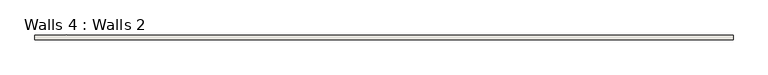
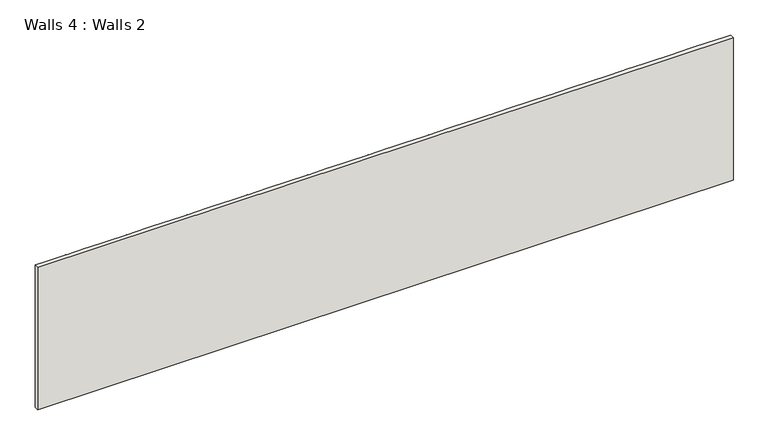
"""IFC4 building model written with IfcOpenShell, lengths in millimetres: wall geometry, Walls 4 : Walls 2."""

from ifc_helpers import new_model, si_unit, frame, origin, place, context, project, spatial, polyline, outline, extrude, source, transform, mapped, element, save


def walls_4_walls_2_c5f77fe5(model_context):
    return source(origin(), model_context, "Body", "SweptSolid", [
        extrude(outline(polyline([(6006.9536405, 3816.8998207), (6006.9536405, 3903.8998207), (6225.0336405, 3903.8998207), (6226.9136405, 3905.7798207), (6228.7936405, 3903.8998207), (6612.9199834, 3903.8998207), (6619.296812, 3910.2766493), (6625.6736405, 3903.8998207), (7018.7936405, 3903.8998207), (7020.6736405, 3905.7798207), (7022.5536405, 3903.8998207), (7415.6736405, 3903.8998207), (7417.5536405, 3905.7798207), (7419.4336405, 3903.8998207), (7812.5536405, 3903.8998207), (7814.4336405, 3905.7798207), (7816.3136405, 3903.8998207), (8209.4336405, 3903.8998207), (8211.3136405, 3905.7798207), (8213.1936405, 3903.8998207), (8606.3136405, 3903.8998207), (8608.1936405, 3905.7798207), (8610.0736405, 3903.8998207), (9003.1936405, 3903.8998207), (9005.0736405, 3905.7798207), (9006.9536405, 3903.8998207), (9400.0736405, 3903.8998207), (9401.9536405, 3905.7798207), (9403.8336405, 3903.8998207), (9796.9536405, 3903.8998207), (9798.8336405, 3905.7798207), (9800.7136405, 3903.8998207), (10193.8336405, 3903.8998207), (10195.7136405, 3905.7798207), (10197.5936405, 3903.8998207), (10590.7136405, 3903.8998207), (10592.5936405, 3905.7798207), (10594.4736405, 3903.8998207), (10987.5936405, 3903.8998207), (10989.4736405, 3905.7798207), (10991.3536405, 3903.8998207), (11384.4736405, 3903.8998207), (11386.3536405, 3905.7798207), (11388.2336405, 3903.8998207), (11781.3536405, 3903.8998207), (11783.2336405, 3905.7798207), (11785.1136405, 3903.8998207), (12178.2336405, 3903.8998207), (12180.1136405, 3905.7798207), (12181.9936405, 3903.8998207), (12575.1136405, 3903.8998207), (12576.9936405, 3905.7798207), (12578.8736405, 3903.8998207), (12971.9936405, 3903.8998207), (12973.8736405, 3905.7798207), (12975.7536405, 3903.8998207), (13368.8736405, 3903.8998207), (13370.7536405, 3905.7798207), (13372.6336405, 3903.8998207), (13765.7536405, 3903.8998207), (13767.6336405, 3905.7798207), (13769.5136405, 3903.8998207), (14162.6336405, 3903.8998207), (14164.5136405, 3905.7798207), (14166.3936405, 3903.8998207), (14559.5136405, 3903.8998207), (14561.3936405, 3905.7798207), (14563.2736405, 3903.8998207), (14956.3936405, 3903.8998207), (14958.2736405, 3905.7798207), (14960.1536405, 3903.8998207), (15353.2736405, 3903.8998207), (15355.1536405, 3905.7798207), (15357.0336405, 3903.8998207), (15750.1536405, 3903.8998207), (15752.0336405, 3905.7798207), (15753.9136405, 3903.8998207), (16147.0336405, 3903.8998207), (16148.9136405, 3905.7798207), (16150.7936405, 3903.8998207), (16543.9136405, 3903.8998207), (16545.7936405, 3905.7798207), (16547.6736405, 3903.8998207), (16940.7936405, 3903.8998207), (16942.6736405, 3905.7798207), (16944.5536405, 3903.8998207), (17337.6736405, 3903.8998207), (17339.5536405, 3905.7798207), (17341.4336405, 3903.8998207), (17734.5536405, 3903.8998207), (17736.4336405, 3905.7798207), (17738.3136405, 3903.8998207), (18131.4336405, 3903.8998207), (18133.3136405, 3905.7798207), (18135.1936405, 3903.8998207), (18528.3136405, 3903.8998207), (18530.1936405, 3905.7798207), (18532.0736405, 3903.8998207), (18925.1936405, 3903.8998207), (18927.0736405, 3905.7798207), (18928.9536405, 3903.8998207), (19322.0736405, 3903.8998207), (19323.9536405, 3905.7798207), (19325.8336405, 3903.8998207), (19718.9536405, 3903.8998207), (19718.9536405, 3816.8998207), (6006.9536405, 3816.8998207)])), frame((0.0, 0.0, 340.0), z_axis=(0.0, 0.0, 1.0), x_axis=(1.0, 0.0, 0.0)), (0.0, 0.0, 1.0), 2971.0),
    ])


if __name__ == "__main__":
    model = new_model("IFC4")
    model_context = context("Model", 3, world=origin())
    ifc_project = project(units=[si_unit("LENGTHUNIT", "METRE", prefix="MILLI")], contexts=[model_context])
    site = spatial("IfcSite", under=ifc_project)
    building = spatial("IfcBuilding", under=site)
    placement = place(None, origin())
    walls_4_walls_2_shape = walls_4_walls_2_c5f77fe5(model_context)
    element("IfcWall", 1, ObjectType="Walls 4 : Walls 2", at=placement, inside=building, context=model_context, shape_type="MappedRepresentation", body=[
        mapped(walls_4_walls_2_shape, transform((0.0, 0.0, 0.0), x_axis=(1.0, 0.0, 0.0), y_axis=(0.0, 1.0, 0.0), z_axis=(0.0, 0.0, 1.0))),
    ])
    save(model, "model.ifc")
